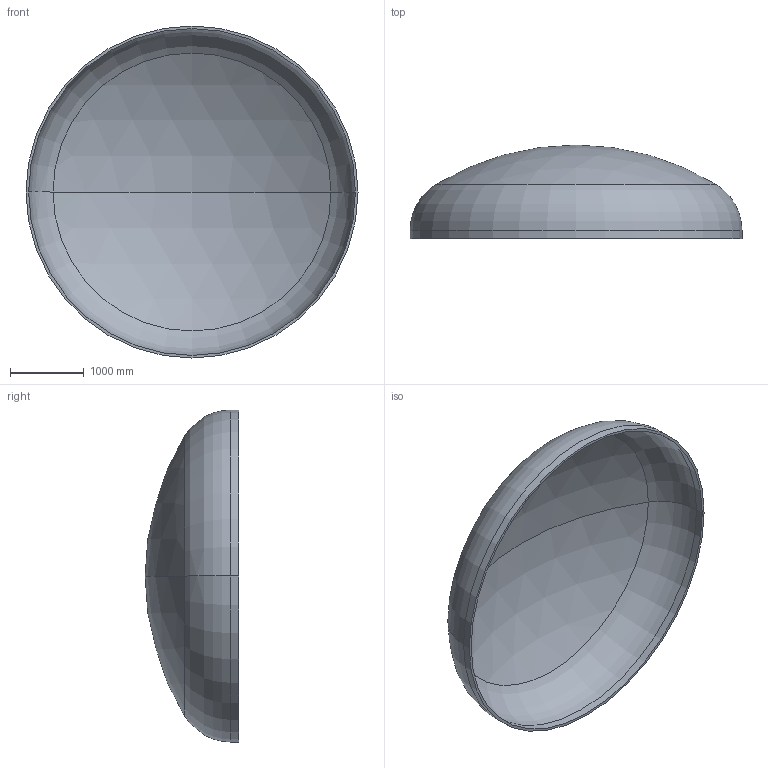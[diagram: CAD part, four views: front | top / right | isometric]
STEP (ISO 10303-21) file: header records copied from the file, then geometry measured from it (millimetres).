
FILE_DESCRIPTION (( 'STEP AP203' ), '1' );
FILE_NAME ('DIN 28013 Korbbogenform_-_Boden DIN 28013 - 4500 x 110 - I - s=35.step', '2016-07-01T23:20:23', ( '' ), ( '' ), 'SwSTEP 2.0', 'SolidWorks 2013', '' );
FILE_SCHEMA (( 'CONFIG_CONTROL_DESIGN' ));
Length unit declared in the file: millimetre
Products named in the file (1): DIN 28013 Korbbogenform_-_Boden DIN 28013 - 4500 x 110 - I - s=35
Bounding box: 4500 x 1269.39 x 4500 mm (x, y, z)
Volume: 817506208.4 mm3; surface area: 47208140.8 mm2
Topology: 1 solids, 1 shells, 13 faces, 24 edges, 14 vertices
Faces by surface type: torus 4, cylinder 4, sphere 4, plane 1
Entity records: 407 total; most frequent: DIRECTION 72, CARTESIAN_POINT 52, ORIENTED_EDGE 48, AXIS2_PLACEMENT_3D 34, EDGE_CURVE 24, CIRCLE 20, EDGE_LOOP 14, VERTEX_POINT 14
